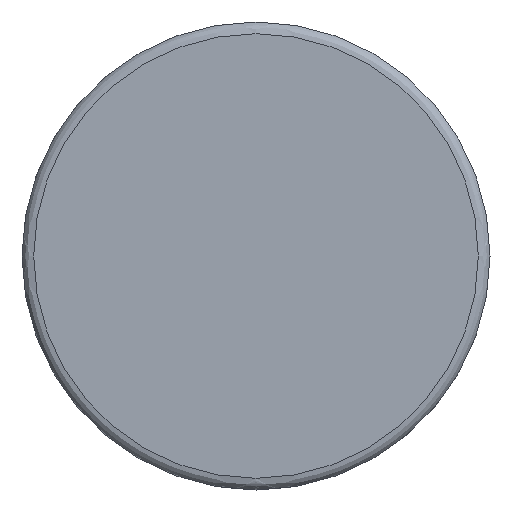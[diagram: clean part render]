
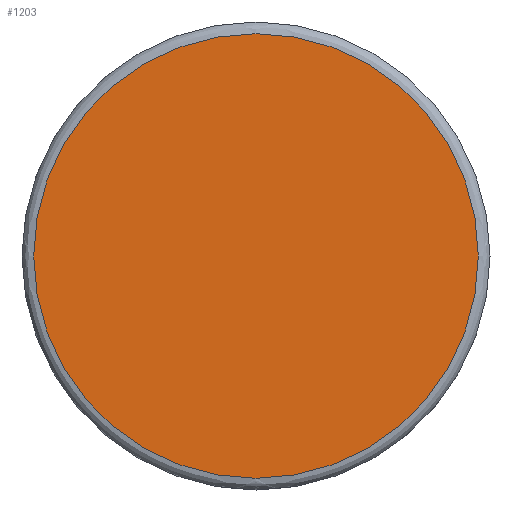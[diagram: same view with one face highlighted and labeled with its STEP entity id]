
A CAD part, front view. The second image highlights one B-rep face of the part: STEP entity #1203.
In plain terms, the highlighted planar face has unit normal (0, -1, 0).
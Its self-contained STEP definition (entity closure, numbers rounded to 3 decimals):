
#1178=CARTESIAN_POINT('',(-28.246,64.054,24.));
#1179=DIRECTION('',(0.0,-1.0,0.0));
#1180=DIRECTION('',(0.0,0.0,-1.0));
#1181=AXIS2_PLACEMENT_3D('',#1178,#1179,#1180);
#1182=PLANE('',#1181);
#1183=CARTESIAN_POINT('',(-4.246,64.054,-19.0));
#1184=VERTEX_POINT('',#1183);
#1185=CARTESIAN_POINT('',(-4.246,64.054,19.0));
#1186=VERTEX_POINT('',#1185);
#1187=CARTESIAN_POINT('',(-4.246,64.054,0.0));
#1188=DIRECTION('',(0.0,-1.0,0.0));
#1189=DIRECTION('',(0.0,0.0,-1.0));
#1190=AXIS2_PLACEMENT_3D('',#1187,#1188,#1189);
#1191=CIRCLE('',#1190,19.0);
#1192=EDGE_CURVE('',#1184,#1186,#1191,.T.);
#1193=ORIENTED_EDGE('',*,*,#1192,.T.);
#1194=CARTESIAN_POINT('',(-4.246,64.054,0.0));
#1195=DIRECTION('',(0.0,-1.0,0.0));
#1196=DIRECTION('',(0.0,0.0,-1.0));
#1197=AXIS2_PLACEMENT_3D('',#1194,#1195,#1196);
#1198=CIRCLE('',#1197,19.0);
#1199=EDGE_CURVE('',#1186,#1184,#1198,.T.);
#1200=ORIENTED_EDGE('',*,*,#1199,.T.);
#1201=EDGE_LOOP('',(#1193,#1200));
#1202=FACE_OUTER_BOUND('',#1201,.T.);
#1203=ADVANCED_FACE('',(#1202),#1182,.T.);
